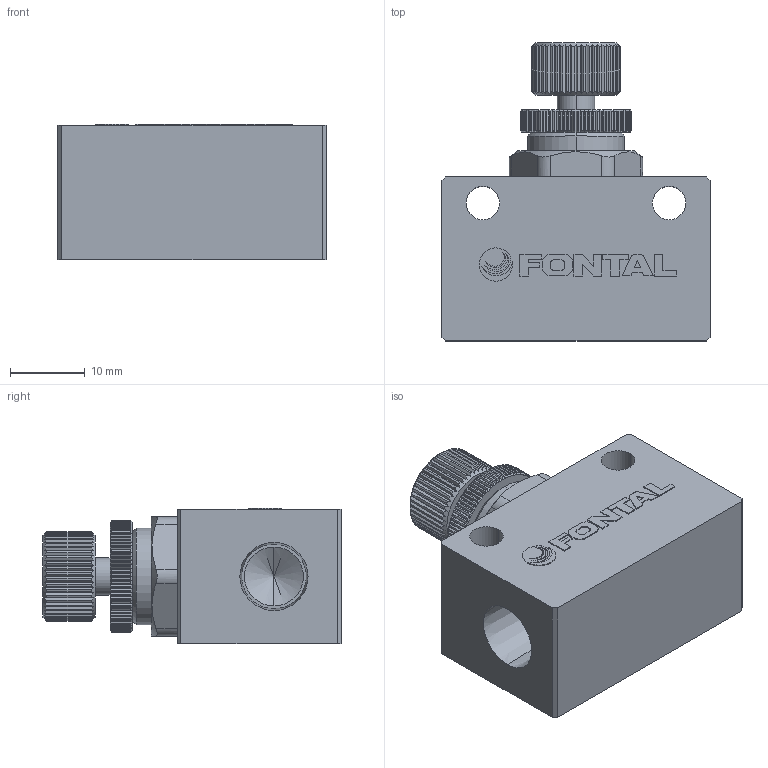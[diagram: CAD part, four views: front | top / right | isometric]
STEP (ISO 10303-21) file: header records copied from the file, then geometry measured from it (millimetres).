
FILE_DESCRIPTION (( 'STEP AP203' ), '1' );
FILE_NAME ('SP-2H-1.STEP', '2016-01-14T19:19:54', ( '' ), ( '' ), 'SwSTEP 2.0', 'SolidWorks 2014', '' );
FILE_SCHEMA (( 'CONFIG_CONTROL_DESIGN' ));
Length unit declared in the file: millimetre
Products named in the file (8): SP-2H-3; SP-2H-5; SP-2H-6; SP-2H-4; SP-2H-2; SP-2H-1; ZH-2H-MARK
Assembly tree (7 placements, depth 2):
  SP-2H-1
    SP-2H-2
    SP-2H-3
    SP-2H-4
    SP-2H-5
    SP-2H-6
    SP-2H-1
    ZH-2H-MARK
Bounding box: 36 x 40 x 18.12 mm (x, y, z)
Volume: 14644.9 mm3; surface area: 6971.4 mm2
Topology: 13 solids, 13 shells, 722 faces, 1736 edges, 1040 vertices
Faces by surface type: plane 359, cone 184, cylinder 171, bspline 8
Entity records: 22080 total; most frequent: CARTESIAN_POINT 5298, ORIENTED_EDGE 3464, DIRECTION 3142, EDGE_CURVE 1732, AXIS2_PLACEMENT_3D 1244, VERTEX_POINT 1040, EDGE_LOOP 738, ADVANCED_FACE 722
